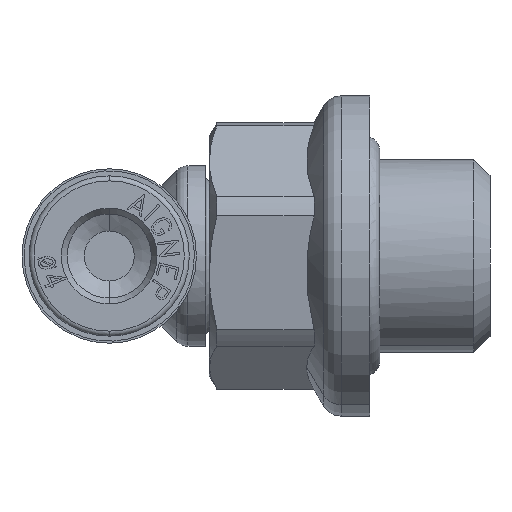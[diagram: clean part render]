
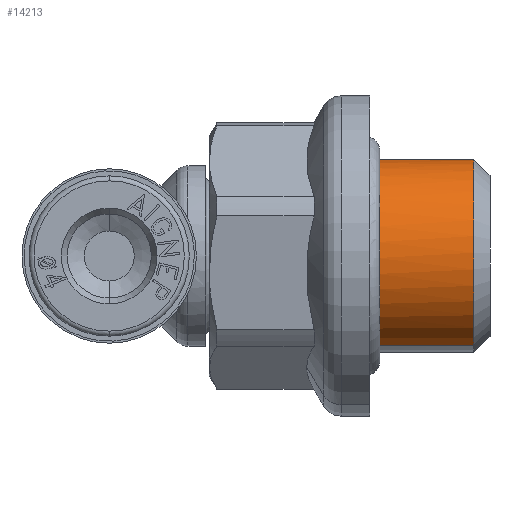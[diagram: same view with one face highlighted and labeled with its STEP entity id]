
A CAD part, front view. The second image highlights one B-rep face of the part: STEP entity #14213.
In plain terms, the highlighted cylindrical face has radius 4.8 mm (diameter 9.6 mm), a partial arc.
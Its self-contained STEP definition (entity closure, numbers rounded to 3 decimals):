
#349 = VECTOR ( 'NONE', #15274, 1000. ) ;
#417 = CARTESIAN_POINT ( 'NONE',  ( 13.35, 11.759, 4.78 ) ) ;
#1171 = ORIENTED_EDGE ( 'NONE', *, *, #20874, .T. ) ;
#3744 = CIRCLE ( 'NONE', #15025, 4.8 ) ;
#4235 = CARTESIAN_POINT ( 'NONE',  ( 19., 13.994, 4.452 ) ) ;
#4351 = DIRECTION ( 'NONE',  ( 1., 0., 0. ) ) ;
#4872 = AXIS2_PLACEMENT_3D ( 'NONE', #10374, #4351, #6030 ) ;
#6030 = DIRECTION ( 'NONE',  ( 0., 0.374, 0.928 ) ) ;
#6502 = VERTEX_POINT ( 'NONE', #7153 ) ;
#7153 = CARTESIAN_POINT ( 'NONE',  ( 13.35, 13.994, 4.452 ) ) ;
#7403 = FACE_OUTER_BOUND ( 'NONE', #26432, .T. ) ;
#8519 = DIRECTION ( 'NONE',  ( 0., 0., 1. ) ) ;
#8526 = EDGE_CURVE ( 'NONE', #6502, #12409, #16644, .T. ) ;
#9678 = VERTEX_POINT ( 'NONE', #22918 ) ;
#10101 = ORIENTED_EDGE ( 'NONE', *, *, #8526, .F. ) ;
#10374 = CARTESIAN_POINT ( 'NONE',  ( 19., 12.2, 0. ) ) ;
#11399 = DIRECTION ( 'NONE',  ( 0., 0.374, 0.928 ) ) ;
#11688 = CIRCLE ( 'NONE', #14715, 4.8 ) ;
#11805 = ORIENTED_EDGE ( 'NONE', *, *, #19433, .F. ) ;
#12003 = AXIS2_PLACEMENT_3D ( 'NONE', #15075, #23391, #11399 ) ;
#12367 = ORIENTED_EDGE ( 'NONE', *, *, #20792, .F. ) ;
#12409 = VERTEX_POINT ( 'NONE', #26405 ) ;
#13582 = VERTEX_POINT ( 'NONE', #20180 ) ;
#13640 = CYLINDRICAL_SURFACE ( 'NONE', #4872, 4.8 ) ;
#14069 = DIRECTION ( 'NONE',  ( 0., 0., 1. ) ) ;
#14213 = ADVANCED_FACE ( 'NONE', ( #7403 ), #13640, .T. ) ;
#14350 = LINE ( 'NONE', #21691, #349 ) ;
#14715 = AXIS2_PLACEMENT_3D ( 'NONE', #18431, #22927, #8519 ) ;
#14991 = VERTEX_POINT ( 'NONE', #417 ) ;
#15025 = AXIS2_PLACEMENT_3D ( 'NONE', #15701, #25972, #14069 ) ;
#15075 = CARTESIAN_POINT ( 'NONE',  ( 18.2, 12.2, 0. ) ) ;
#15274 = DIRECTION ( 'NONE',  ( 1., 0., 0. ) ) ;
#15594 = VECTOR ( 'NONE', #18806, 1000. ) ;
#15701 = CARTESIAN_POINT ( 'NONE',  ( 13.35, 12.2, 0. ) ) ;
#16269 = ORIENTED_EDGE ( 'NONE', *, *, #19131, .F. ) ;
#16644 = LINE ( 'NONE', #4235, #15594 ) ;
#18431 = CARTESIAN_POINT ( 'NONE',  ( 13.35, 12.2, 0. ) ) ;
#18806 = DIRECTION ( 'NONE',  ( 1., 0., 0. ) ) ;
#19131 = EDGE_CURVE ( 'NONE', #12409, #9678, #22424, .T. ) ;
#19433 = EDGE_CURVE ( 'NONE', #13582, #14991, #3744, .T. ) ;
#20180 = CARTESIAN_POINT ( 'NONE',  ( 13.35, 10.406, -4.452 ) ) ;
#20792 = EDGE_CURVE ( 'NONE', #14991, #6502, #11688, .T. ) ;
#20874 = EDGE_CURVE ( 'NONE', #13582, #9678, #14350, .T. ) ;
#21691 = CARTESIAN_POINT ( 'NONE',  ( 19., 10.406, -4.452 ) ) ;
#22424 = CIRCLE ( 'NONE', #12003, 4.8 ) ;
#22918 = CARTESIAN_POINT ( 'NONE',  ( 18.2, 10.406, -4.452 ) ) ;
#22927 = DIRECTION ( 'NONE',  ( -1., 0., 0. ) ) ;
#23391 = DIRECTION ( 'NONE',  ( 1., 0., 0. ) ) ;
#25972 = DIRECTION ( 'NONE',  ( -1., 0., 0. ) ) ;
#26405 = CARTESIAN_POINT ( 'NONE',  ( 18.2, 13.994, 4.452 ) ) ;
#26432 = EDGE_LOOP ( 'NONE', ( #11805, #1171, #16269, #10101, #12367 ) ) ;
